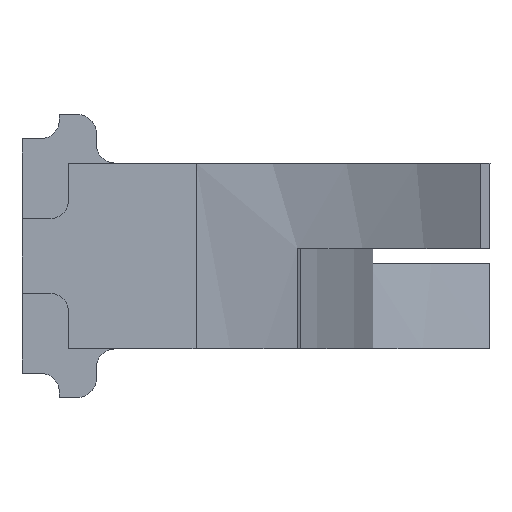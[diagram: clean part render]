
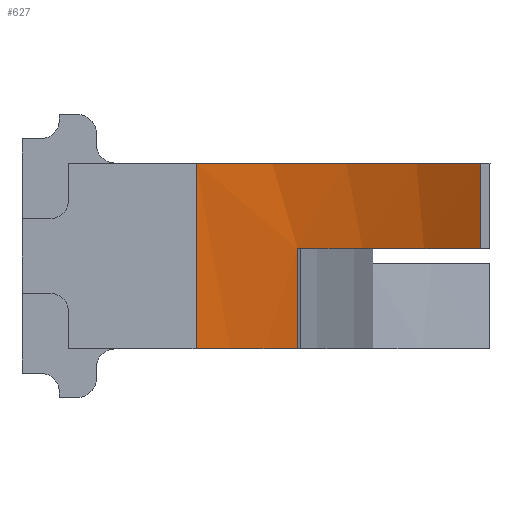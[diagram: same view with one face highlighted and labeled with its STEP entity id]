
A CAD part, left-side view. The second image highlights one B-rep face of the part: STEP entity #627.
In plain terms, the highlighted cylindrical face has radius 12.575 mm (diameter 25.15 mm), a partial arc.
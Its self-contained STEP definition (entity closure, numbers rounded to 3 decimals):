
#112=CARTESIAN_POINT('',(-14.003,-6.168,7.7));
#113=VERTEX_POINT('',#112);
#122=CARTESIAN_POINT('',(-11.708,-1.245,7.7));
#123=VERTEX_POINT('',#122);
#124=CARTESIAN_POINT('',(-23.983,1.484,7.7));
#125=DIRECTION('',(0.0,0.0,-1.));
#126=DIRECTION('',(0.794,-0.608,0.0));
#127=AXIS2_PLACEMENT_3D('',#124,#125,#126);
#128=CIRCLE('',#127,12.575);
#129=EDGE_CURVE('',#123,#113,#128,.T.);
#196=CARTESIAN_POINT('',(-14.003,-6.169,10.0));
#197=VERTEX_POINT('',#196);
#204=CARTESIAN_POINT('',(-14.003,-6.168,7.7));
#205=DIRECTION('',(0.,-0.001,1.));
#206=VECTOR('',#205,2.3);
#207=LINE('',#204,#206);
#208=EDGE_CURVE('',#113,#197,#207,.T.);
#542=CARTESIAN_POINT('',(-11.408,1.484,10.0));
#543=VERTEX_POINT('',#542);
#550=CARTESIAN_POINT('',(-23.983,1.484,10.0));
#551=DIRECTION('',(0.0,0.0,-1.));
#552=DIRECTION('',(0.794,-0.608,0.0));
#553=AXIS2_PLACEMENT_3D('',#550,#551,#552);
#554=CIRCLE('',#553,12.575);
#555=EDGE_CURVE('',#543,#197,#554,.T.);
#594=CARTESIAN_POINT('',(-23.983,1.484,5.));
#595=DIRECTION('',(0.0,0.0,1.0));
#596=DIRECTION('',(-0.321,-0.947,0.0));
#597=AXIS2_PLACEMENT_3D('',#594,#595,#596);
#598=CYLINDRICAL_SURFACE('',#597,12.575);
#599=CARTESIAN_POINT('',(-11.408,1.484,5.0));
#600=VERTEX_POINT('',#599);
#601=CARTESIAN_POINT('',(-11.708,-1.245,5.0));
#602=VERTEX_POINT('',#601);
#603=CARTESIAN_POINT('',(-23.983,1.484,5.0));
#604=DIRECTION('',(0.0,0.0,-1.));
#605=DIRECTION('',(0.976,-0.217,0.0));
#606=AXIS2_PLACEMENT_3D('',#603,#604,#605);
#607=CIRCLE('',#606,12.575);
#608=EDGE_CURVE('',#600,#602,#607,.T.);
#609=ORIENTED_EDGE('',*,*,#608,.T.);
#610=CARTESIAN_POINT('',(-11.708,-1.245,5.0));
#611=DIRECTION('',(0.,0.,1.));
#612=VECTOR('',#611,2.7);
#613=LINE('',#610,#612);
#614=EDGE_CURVE('',#602,#123,#613,.T.);
#615=ORIENTED_EDGE('',*,*,#614,.T.);
#616=ORIENTED_EDGE('',*,*,#129,.T.);
#617=ORIENTED_EDGE('',*,*,#208,.T.);
#618=ORIENTED_EDGE('',*,*,#555,.F.);
#619=CARTESIAN_POINT('',(-11.408,1.484,5.0));
#620=DIRECTION('',(0.0,0.0,1.0));
#621=VECTOR('',#620,5.0);
#622=LINE('',#619,#621);
#623=EDGE_CURVE('',#600,#543,#622,.T.);
#624=ORIENTED_EDGE('',*,*,#623,.F.);
#625=EDGE_LOOP('',(#609,#615,#616,#617,#618,#624));
#626=FACE_OUTER_BOUND('',#625,.T.);
#627=ADVANCED_FACE('',(#626),#598,.F.);
